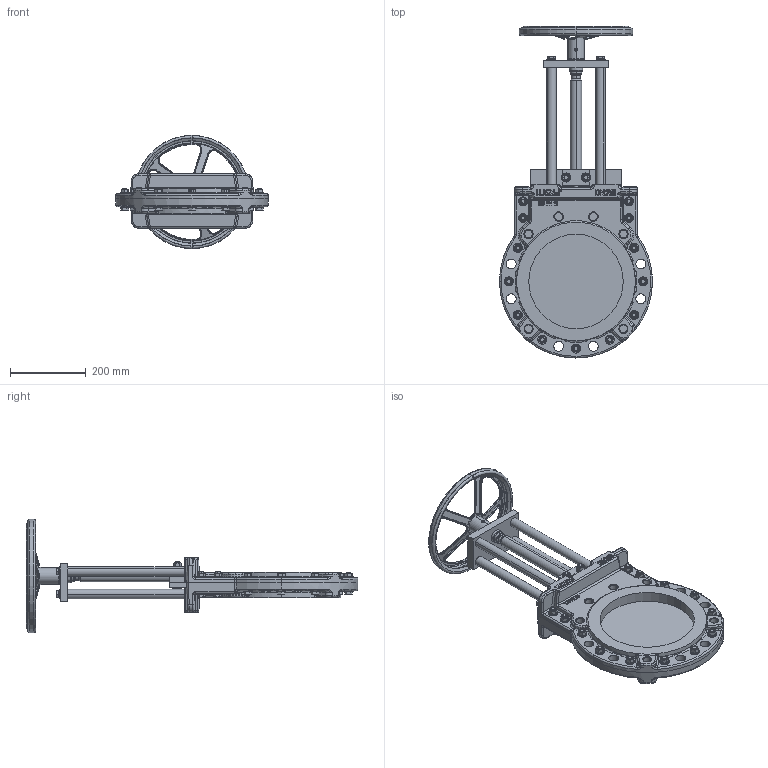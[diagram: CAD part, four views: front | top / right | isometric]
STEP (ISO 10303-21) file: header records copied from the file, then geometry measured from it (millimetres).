
FILE_DESCRIPTION (( 'STEP AP214' ), '1' );
FILE_NAME ('MGA DN 0250 PN16 (DH 300).STEP', '2015-09-23T08:04:52', ( 'admin' ), ( 'Hewlett-Packard Company' ), 'SwSTEP 2.0', 'SolidWorks 2013', '' );
FILE_SCHEMA (( 'AUTOMOTIVE_DESIGN' ));
Length unit declared in the file: millimetre
Products named in the file (1): MGA DN 0250 PN16 (DH 300)
Bounding box: 405 x 878 x 300 mm (x, y, z)
Volume: 8460850.8 mm3; surface area: 1025284.6 mm2
Topology: 72 solids, 81 shells, 2501 faces, 5777 edges, 3498 vertices
Faces by surface type: plane 913, cylinder 632, cone 505, bspline 278, torus 152, sphere 21
Entity records: 117405 total; most frequent: CARTESIAN_POINT 34330, ORIENTED_EDGE 11490, DIRECTION 11104, EDGE_CURVE 5745, AXIS2_PLACEMENT_3D 4407, VERTEX_POINT 3498, EDGE_LOOP 2767, UNCERTAINTY_MEASURE_WITH_UNIT 2573
